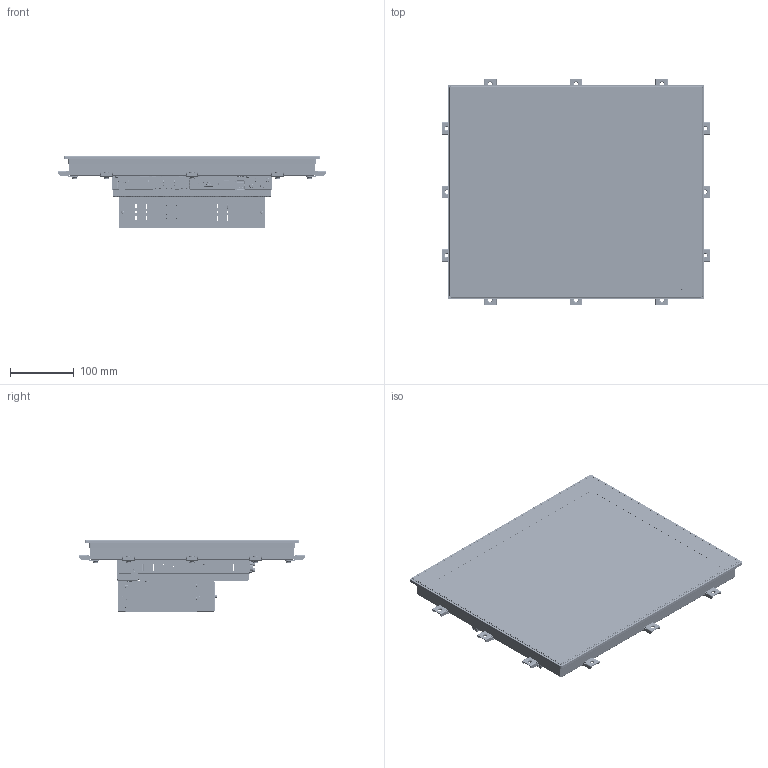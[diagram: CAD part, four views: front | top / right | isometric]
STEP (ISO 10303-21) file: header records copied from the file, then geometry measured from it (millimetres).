
FILE_DESCRIPTION((''),'2;1');
FILE_NAME('AP6A-170-Z','2026-06-02T13:11:35',('gijyu181'),(''),'CREO PARAMETRIC BY PTC INC, 2018050','CREO PARAMETRIC BY PTC INC, 2018050','');
FILE_SCHEMA(('CONFIG_CONTROL_DESIGN','SHAPE_APPEARANCE_LAYERS_GROUPS'));
Products named in the file (1): AP6A-170-Z
Bounding box: 422 x 356 x 114.47 mm (x, y, z)
Volume: 2247033.9 mm3; surface area: 1612155.7 mm2
Topology: 7 solids, 136 shells, 42353 faces, 123541 edges, 81602 vertices
Faces by surface type: plane 29041, cylinder 10328, extrusion 1524, torus 497, cone 456, bspline 370, sphere 137
Entity records: 1633576 total; most frequent: CARTESIAN_POINT 294288, ORIENTED_EDGE 246007, DIRECTION 223621, EDGE_CURVE 123473, VECTOR 96903, LINE 95379, VERTEX_POINT 81603, AXIS2_PLACEMENT_3D 63359
